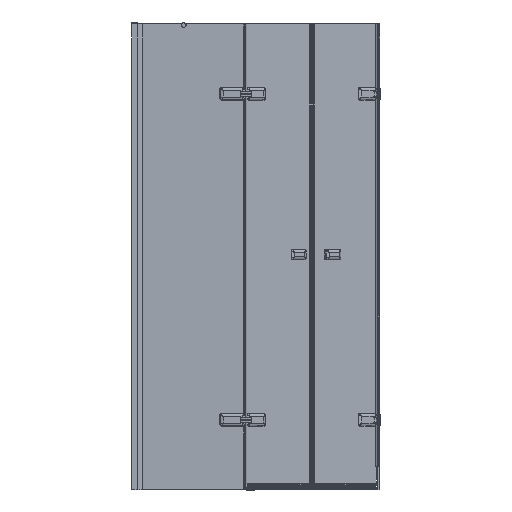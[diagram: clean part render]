
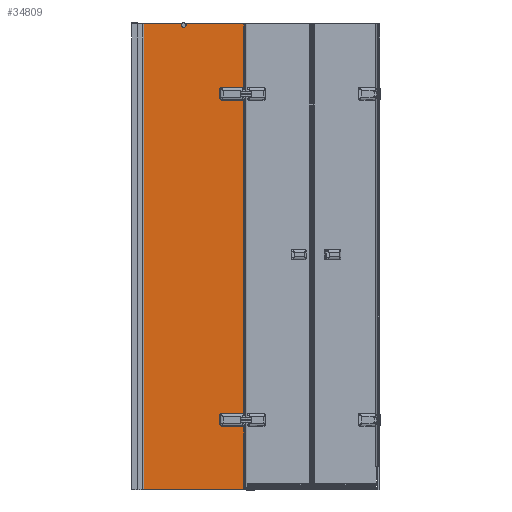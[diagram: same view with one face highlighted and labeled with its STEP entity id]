
A CAD part, front view. The second image highlights one B-rep face of the part: STEP entity #34809.
In plain terms, the highlighted planar face has unit normal (0, -1, 0).
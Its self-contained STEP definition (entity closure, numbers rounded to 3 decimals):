
#1377=PLANE($,#37162);
#2770=FACE_OUTER_BOUND($,#4636,.T.);
#4636=EDGE_LOOP($,(#25187,#25188,#25189,#25190,#25191,#25192,#25193,#25194,
#25195,#25196,#25197,#25198,#25199,#25200,#25201,#25202,#25203,#25204,#25205,
#25206,#25207,#25208));
#6372=CIRCLE($,#36934,5.);
#6376=CIRCLE($,#36943,5.);
#6409=CIRCLE($,#37016,5.);
#6411=CIRCLE($,#37020,5.);
#6457=CIRCLE($,#37163,5.);
#6458=CIRCLE($,#37164,5.);
#6459=CIRCLE($,#37165,5.);
#6460=CIRCLE($,#37166,5.);
#6461=CIRCLE($,#37167,10.);
#8021=LINE($,#69250,#11242);
#8025=LINE($,#69262,#11246);
#8029=LINE($,#69273,#11250);
#8129=LINE($,#70126,#11350);
#8133=LINE($,#70133,#11354);
#8163=LINE($,#70212,#11384);
#8164=LINE($,#70216,#11385);
#8165=LINE($,#70220,#11386);
#8166=LINE($,#70224,#11387);
#8167=LINE($,#70226,#11388);
#8168=LINE($,#70230,#11389);
#8169=LINE($,#70232,#11390);
#8170=LINE($,#70233,#11391);
#11242=VECTOR($,#41979,96.);
#11246=VECTOR($,#41991,42.);
#11250=VECTOR($,#42003,96.);
#11350=VECTOR($,#42355,274.172);
#11354=VECTOR($,#42361,1348.344);
#11384=VECTOR($,#42419,96.);
#11385=VECTOR($,#42422,42.);
#11386=VECTOR($,#42425,96.);
#11387=VECTOR($,#42428,274.172);
#11388=VECTOR($,#42429,249.666);
#11389=VECTOR($,#42432,164.716);
#11390=VECTOR($,#42433,2000.);
#11391=VECTOR($,#42434,432.243);
#14591=VERTEX_POINT($,#68884);
#14592=VERTEX_POINT($,#68886);
#14620=VERTEX_POINT($,#68951);
#14622=VERTEX_POINT($,#68954);
#14723=VERTEX_POINT($,#69249);
#14725=VERTEX_POINT($,#69255);
#14727=VERTEX_POINT($,#69261);
#14729=VERTEX_POINT($,#69267);
#14825=VERTEX_POINT($,#70125);
#14827=VERTEX_POINT($,#70131);
#14857=VERTEX_POINT($,#70209);
#14858=VERTEX_POINT($,#70211);
#14859=VERTEX_POINT($,#70213);
#14860=VERTEX_POINT($,#70215);
#14861=VERTEX_POINT($,#70217);
#14862=VERTEX_POINT($,#70219);
#14863=VERTEX_POINT($,#70221);
#14864=VERTEX_POINT($,#70223);
#14865=VERTEX_POINT($,#70225);
#14866=VERTEX_POINT($,#70227);
#14867=VERTEX_POINT($,#70229);
#14868=VERTEX_POINT($,#70231);
#18306=EDGE_CURVE($,#14592,#14591,#6372,.T.);
#18337=EDGE_CURVE($,#14622,#14620,#6376,.T.);
#18485=EDGE_CURVE($,#14591,#14723,#8021,.T.);
#18488=EDGE_CURVE($,#14723,#14725,#6409,.T.);
#18491=EDGE_CURVE($,#14725,#14727,#8025,.T.);
#18494=EDGE_CURVE($,#14727,#14729,#6411,.T.);
#18497=EDGE_CURVE($,#14729,#14622,#8029,.T.);
#18666=EDGE_CURVE($,#14825,#14592,#8129,.T.);
#18670=EDGE_CURVE($,#14620,#14827,#8133,.T.);
#18708=EDGE_CURVE($,#14827,#14857,#6457,.T.);
#18709=EDGE_CURVE($,#14857,#14858,#8163,.T.);
#18710=EDGE_CURVE($,#14858,#14859,#6458,.T.);
#18711=EDGE_CURVE($,#14859,#14860,#8164,.T.);
#18712=EDGE_CURVE($,#14860,#14861,#6459,.T.);
#18713=EDGE_CURVE($,#14861,#14862,#8165,.T.);
#18714=EDGE_CURVE($,#14862,#14863,#6460,.T.);
#18715=EDGE_CURVE($,#14863,#14864,#8166,.T.);
#18716=EDGE_CURVE($,#14864,#14865,#8167,.T.);
#18717=EDGE_CURVE($,#14865,#14866,#6461,.T.);
#18718=EDGE_CURVE($,#14866,#14867,#8168,.T.);
#18719=EDGE_CURVE($,#14867,#14868,#8169,.T.);
#18720=EDGE_CURVE($,#14825,#14868,#8170,.T.);
#25187=ORIENTED_EDGE($,*,*,#18306,.T.);
#25188=ORIENTED_EDGE($,*,*,#18485,.T.);
#25189=ORIENTED_EDGE($,*,*,#18488,.T.);
#25190=ORIENTED_EDGE($,*,*,#18491,.T.);
#25191=ORIENTED_EDGE($,*,*,#18494,.T.);
#25192=ORIENTED_EDGE($,*,*,#18497,.T.);
#25193=ORIENTED_EDGE($,*,*,#18337,.T.);
#25194=ORIENTED_EDGE($,*,*,#18670,.T.);
#25195=ORIENTED_EDGE($,*,*,#18708,.T.);
#25196=ORIENTED_EDGE($,*,*,#18709,.T.);
#25197=ORIENTED_EDGE($,*,*,#18710,.T.);
#25198=ORIENTED_EDGE($,*,*,#18711,.T.);
#25199=ORIENTED_EDGE($,*,*,#18712,.T.);
#25200=ORIENTED_EDGE($,*,*,#18713,.T.);
#25201=ORIENTED_EDGE($,*,*,#18714,.T.);
#25202=ORIENTED_EDGE($,*,*,#18715,.T.);
#25203=ORIENTED_EDGE($,*,*,#18716,.T.);
#25204=ORIENTED_EDGE($,*,*,#18717,.T.);
#25205=ORIENTED_EDGE($,*,*,#18718,.T.);
#25206=ORIENTED_EDGE($,*,*,#18719,.T.);
#25207=ORIENTED_EDGE($,*,*,#18720,.F.);
#25208=ORIENTED_EDGE($,*,*,#18666,.T.);
#34809=ADVANCED_FACE($,(#2770),#1377,.T.);
#36934=AXIS2_PLACEMENT_3D($,#68887,#41686,#41687);
#36943=AXIS2_PLACEMENT_3D($,#68955,#41729,#41730);
#37016=AXIS2_PLACEMENT_3D($,#69256,#41984,#41985);
#37020=AXIS2_PLACEMENT_3D($,#69268,#41996,#41997);
#37162=AXIS2_PLACEMENT_3D($,#70208,#42415,#42416);
#37163=AXIS2_PLACEMENT_3D($,#70210,#42417,#42418);
#37164=AXIS2_PLACEMENT_3D($,#70214,#42420,#42421);
#37165=AXIS2_PLACEMENT_3D($,#70218,#42423,#42424);
#37166=AXIS2_PLACEMENT_3D($,#70222,#42426,#42427);
#37167=AXIS2_PLACEMENT_3D($,#70228,#42430,#42431);
#41686=DIRECTION('center_axis',(0.,1.,0.));
#41687=DIRECTION('ref_axis',(0.,0.,
1.));
#41729=DIRECTION('center_axis',(0.,1.,0.));
#41730=DIRECTION('ref_axis',(-1.,0.,0.));
#41979=DIRECTION($,(-1.,0.,0.));
#41984=DIRECTION('center_axis',(0.,1.,0.));
#41985=DIRECTION('ref_axis',(1.,0.,0.));
#41991=DIRECTION($,(0.,0.,1.));
#41996=DIRECTION('center_axis',(0.,1.,0.));
#41997=DIRECTION('ref_axis',(0.,0.,
-1.));
#42003=DIRECTION($,(1.,0.,0.));
#42355=DIRECTION($,(0.,0.,1.));
#42361=DIRECTION($,(0.,0.,1.));
#42415=DIRECTION('center_axis',(0.,-1.,0.));
#42416=DIRECTION('ref_axis',(-1.,0.,0.));
#42417=DIRECTION('center_axis',(0.,1.,0.));
#42418=DIRECTION('ref_axis',(0.,0.,
1.));
#42419=DIRECTION($,(-1.,0.,0.));
#42420=DIRECTION('center_axis',(0.,1.,0.));
#42421=DIRECTION('ref_axis',(1.,0.,0.));
#42422=DIRECTION($,(0.,0.,1.));
#42423=DIRECTION('center_axis',(0.,1.,0.));
#42424=DIRECTION('ref_axis',(0.,0.,
-1.));
#42425=DIRECTION($,(1.,0.,0.));
#42426=DIRECTION('center_axis',(0.,1.,0.));
#42427=DIRECTION('ref_axis',(-1.,0.,0.));
#42428=DIRECTION($,(0.,0.,1.));
#42429=DIRECTION($,(-1.,0.,0.));
#42430=DIRECTION('center_axis',(0.,1.,0.));
#42431=DIRECTION('ref_axis',(-1.,0.,0.));
#42432=DIRECTION($,(-1.,0.,0.));
#42433=DIRECTION($,(0.,0.,-1.));
#42434=DIRECTION($,(-1.,0.,0.));
#68884=CARTESIAN_POINT('',(761.248,-149.729,-140.056));
#68886=CARTESIAN_POINT('',(762.548,-149.729,-139.884));
#68887=CARTESIAN_POINT('Origin',(761.248,-149.729,-135.056));
#68951=CARTESIAN_POINT('',(762.548,-149.729,-88.227));
#68954=CARTESIAN_POINT('',(761.248,-149.729,-88.056));
#68955=CARTESIAN_POINT('Origin',(761.248,-149.729,-93.056));
#69249=CARTESIAN_POINT('',(665.248,-149.729,-140.056));
#69250=CARTESIAN_POINT($,(716.248,-149.729,-140.056));
#69255=CARTESIAN_POINT('',(660.248,-149.729,-135.056));
#69256=CARTESIAN_POINT('Origin',(665.248,-149.729,-135.056));
#69261=CARTESIAN_POINT('',(660.248,-149.729,-93.056));
#69262=CARTESIAN_POINT($,(660.248,-149.729,746.444));
#69267=CARTESIAN_POINT('',(665.248,-149.729,-88.056));
#69268=CARTESIAN_POINT('Origin',(665.248,-149.729,-93.056));
#69273=CARTESIAN_POINT($,(764.248,-149.729,-88.056));
#70125=CARTESIAN_POINT('',(762.548,-149.729,-414.056));
#70126=CARTESIAN_POINT($,(762.548,-149.729,585.944));
#70131=CARTESIAN_POINT('',(762.548,-149.729,1260.116));
#70133=CARTESIAN_POINT($,(762.548,-149.729,740.944));
#70208=CARTESIAN_POINT('Origin',(767.248,-149.729,1585.944));
#70209=CARTESIAN_POINT('',(761.248,-149.729,1259.944));
#70210=CARTESIAN_POINT('Origin',(761.248,-149.729,1264.944));
#70211=CARTESIAN_POINT('',(665.248,-149.729,1259.944));
#70212=CARTESIAN_POINT($,(716.248,-149.729,1259.944));
#70213=CARTESIAN_POINT('',(660.248,-149.729,1264.944));
#70214=CARTESIAN_POINT('Origin',(665.248,-149.729,1264.944));
#70215=CARTESIAN_POINT('',(660.248,-149.729,1306.944));
#70216=CARTESIAN_POINT($,(660.248,-149.729,1446.444));
#70217=CARTESIAN_POINT('',(665.248,-149.729,1311.944));
#70218=CARTESIAN_POINT('Origin',(665.248,-149.729,1306.944));
#70219=CARTESIAN_POINT('',(761.248,-149.729,1311.944));
#70220=CARTESIAN_POINT($,(764.248,-149.729,1311.944));
#70221=CARTESIAN_POINT('',(762.548,-149.729,1311.773));
#70222=CARTESIAN_POINT('Origin',(761.248,-149.729,1306.944));
#70223=CARTESIAN_POINT('',(762.548,-149.729,1585.944));
#70224=CARTESIAN_POINT($,(762.548,-149.729,1585.944));
#70225=CARTESIAN_POINT('',(512.882,-149.729,1585.944));
#70226=CARTESIAN_POINT($,(767.248,-149.729,1585.944));
#70227=CARTESIAN_POINT('',(495.021,-149.729,1585.944));
#70228=CARTESIAN_POINT('Origin',(503.951,-149.729,1581.444));
#70229=CARTESIAN_POINT('',(330.305,-149.729,1585.944));
#70230=CARTESIAN_POINT($,(767.248,-149.729,1585.944));
#70231=CARTESIAN_POINT('',(330.305,-149.729,-414.056));
#70232=CARTESIAN_POINT($,(330.305,-149.729,585.944));
#70233=CARTESIAN_POINT($,(767.248,-149.729,-414.056));
